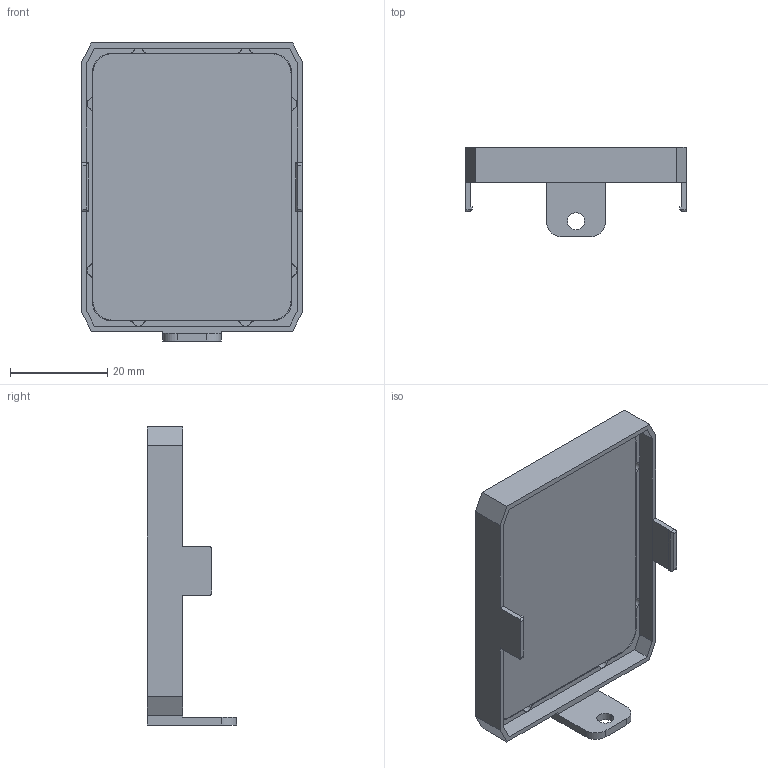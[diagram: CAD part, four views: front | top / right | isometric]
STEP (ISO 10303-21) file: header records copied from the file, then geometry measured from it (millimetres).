
FILE_DESCRIPTION((''),'2;1');
FILE_NAME('DE-14-039822_16','2023-11-10T10:57:22',('qinyangfan'),(''),'CREO PARAMETRIC BY PTC INC, 2020044','CREO PARAMETRIC BY PTC INC, 2020044','');
FILE_SCHEMA(('CONFIG_CONTROL_DESIGN'));
Length unit declared in the file: millimetre
Products named in the file (1): DE-14-039822_16
Bounding box: 45.2 x 18.3 x 61.2 mm (x, y, z)
Volume: 8221.9 mm3; surface area: 9058.4 mm2
Topology: 1 solids, 1 shells, 121 faces, 332 edges, 216 vertices
Faces by surface type: plane 73, cylinder 44, cone 4
Entity records: 3895 total; most frequent: CARTESIAN_POINT 692, DIRECTION 670, ORIENTED_EDGE 664, EDGE_CURVE 332, VECTOR 228, LINE 228, AXIS2_PLACEMENT_3D 221, VERTEX_POINT 216
